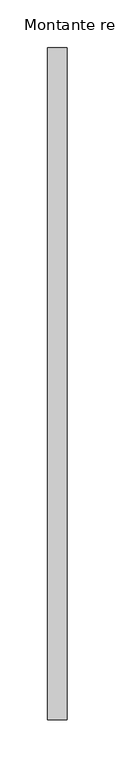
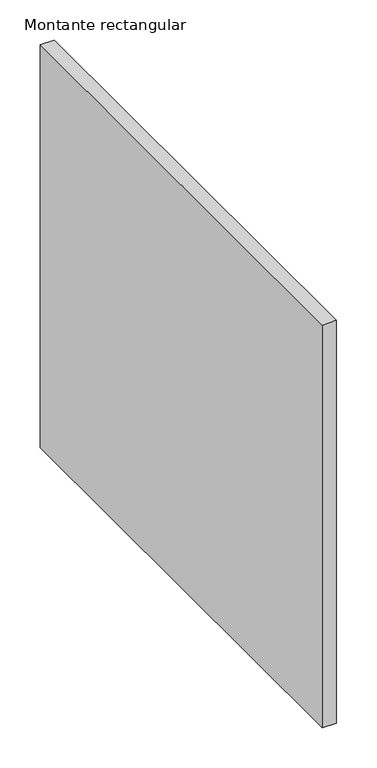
"""IFC4 building model written with IfcOpenShell, lengths in millimetres: member geometry, Montante rectangular : CIRCLES 2."""

from ifc_helpers import new_model, si_unit, frame, origin, place, context, project, spatial, polyline, outline, extrude, source, transform, mapped, element, save


def montante_rectangular_a98bdce8(model_context):
    return source(origin(), model_context, "Body", "SweptSolid", [
        extrude(outline(polyline([(-20.0, 350.0), (0.0, 350.0), (0.0, -350.0), (-20.0, -350.0), (-20.0, 350.0)])), frame((0.0, 0.0, -610.0), z_axis=(0.0, 0.0, 1.0), x_axis=(1.0, 0.0, 0.0)), (0.0, 0.0, 1.0), 610.0),
    ])


if __name__ == "__main__":
    model = new_model("IFC4")
    model_context = context("Model", 3, world=origin())
    ifc_project = project(units=[si_unit("LENGTHUNIT", "METRE", prefix="MILLI")], contexts=[model_context])
    site = spatial("IfcSite", under=ifc_project)
    building = spatial("IfcBuilding", under=site)
    placement = place(None, origin())
    montante_rectangular_shape = montante_rectangular_a98bdce8(model_context)
    element("IfcMember", 1, ObjectType="Montante rectangular : CIRCLES 2", at=placement, inside=building, context=model_context, shape_type="MappedRepresentation", body=[
        mapped(montante_rectangular_shape, transform((0.0, 0.0, 0.0), x_axis=(1.0, 0.0, 0.0), y_axis=(0.0, 1.0, 0.0), z_axis=(0.0, 0.0, 1.0))),
    ])
    save(model, "model.ifc")
